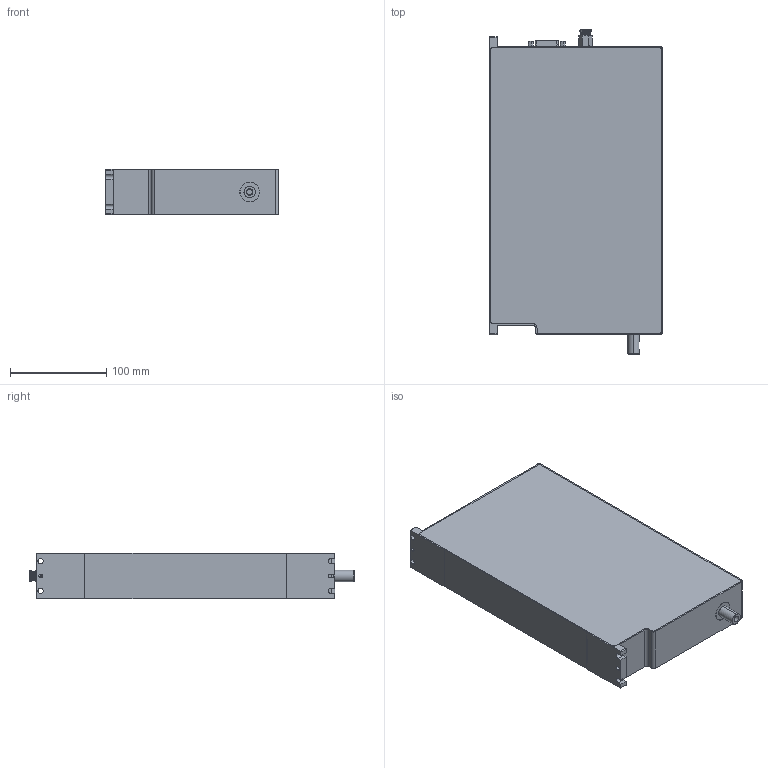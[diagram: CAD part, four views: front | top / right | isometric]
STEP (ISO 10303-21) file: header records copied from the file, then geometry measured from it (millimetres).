
FILE_DESCRIPTION (( 'STEP AP214' ), '1' );
FILE_NAME ('ZRADS12-47-S50-EC.STEP', '2023-08-01T01:28:09', ( 'XZOS' ), ( 'MS' ), 'SwSTEP 2.0', 'SolidWorks 2019', '' );
FILE_SCHEMA (( 'AUTOMOTIVE_DESIGN' ));
Length unit declared in the file: millimetre
Products named in the file (8): db26-gtZ; BPC6M5; ZRADS12-47-S50-EC; 508-20-003; 508-20-006; 508-20-001; 揹諳諉芛假蚾翐; 508-20-017
Assembly tree (8 placements, depth 2):
  ZRADS12-47-S50-EC
    508-20-001
    508-20-003
    db26-gtZ
    508-20-006
    BPC6M5
    508-20-017
    揹諳諉芛假蚾翐  x2
Bounding box: 180 x 337 x 47 mm (x, y, z)
Volume: 2559851 mm3; surface area: 285710.9 mm2
Topology: 8 solids, 8 shells, 390 faces, 897 edges, 584 vertices
Faces by surface type: cylinder 186, plane 156, cone 30, torus 18
Entity records: 15401 total; most frequent: CARTESIAN_POINT 2194, DIRECTION 1987, ORIENTED_EDGE 1722, EDGE_CURVE 861, AXIS2_PLACEMENT_3D 788, VERTEX_POINT 563, EDGE_LOOP 456, LINE 411
